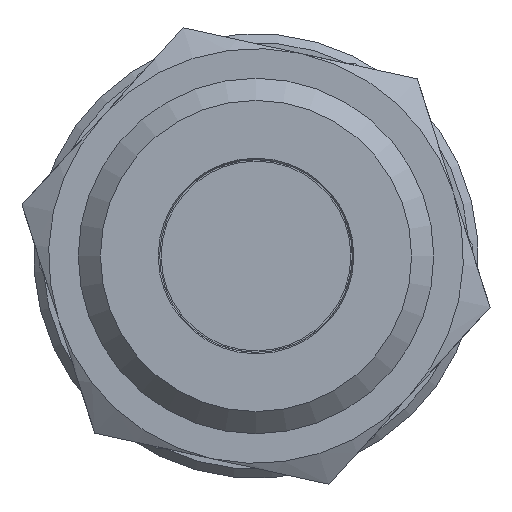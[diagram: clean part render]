
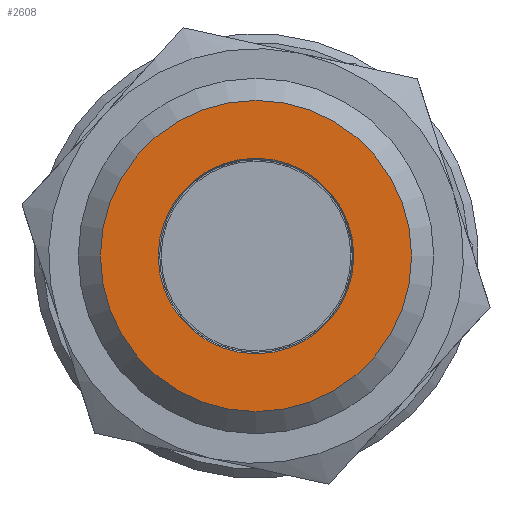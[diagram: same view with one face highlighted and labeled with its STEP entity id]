
A CAD part, front view. The second image highlights one B-rep face of the part: STEP entity #2608.
In plain terms, the highlighted planar face has unit normal (0, -1, 0).
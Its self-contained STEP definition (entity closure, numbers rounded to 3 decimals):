
#100=FACE_BOUND('',#606,.T.);
#126=PLANE('',#2903);
#218=CIRCLE('',#2901,5.25);
#219=CIRCLE('',#2902,5.25);
#220=CIRCLE('',#2904,3.3);
#221=CIRCLE('',#2905,3.3);
#455=FACE_OUTER_BOUND('',#605,.T.);
#605=EDGE_LOOP('',(#1674,#1675));
#606=EDGE_LOOP('',(#1676,#1677));
#982=VERTEX_POINT('',#4439);
#983=VERTEX_POINT('',#4441);
#984=VERTEX_POINT('',#4445);
#985=VERTEX_POINT('',#4446);
#1266=EDGE_CURVE('',#982,#983,#218,.T.);
#1267=EDGE_CURVE('',#983,#982,#219,.T.);
#1268=EDGE_CURVE('',#984,#985,#220,.T.);
#1269=EDGE_CURVE('',#985,#984,#221,.T.);
#1674=ORIENTED_EDGE('',*,*,#1267,.F.);
#1675=ORIENTED_EDGE('',*,*,#1266,.F.);
#1676=ORIENTED_EDGE('',*,*,#1268,.T.);
#1677=ORIENTED_EDGE('',*,*,#1269,.T.);
#2608=ADVANCED_FACE('',(#455,#100),#126,.T.);
#2901=AXIS2_PLACEMENT_3D('',#4442,#3312,#3313);
#2902=AXIS2_PLACEMENT_3D('',#4443,#3314,#3315);
#2903=AXIS2_PLACEMENT_3D('',#4444,#3316,#3317);
#2904=AXIS2_PLACEMENT_3D('',#4447,#3318,#3319);
#2905=AXIS2_PLACEMENT_3D('',#4448,#3320,#3321);
#3312=DIRECTION('center_axis',(0.,1.,0.));
#3313=DIRECTION('ref_axis',(-1.,0.,0.));
#3314=DIRECTION('center_axis',(0.,1.,0.));
#3315=DIRECTION('ref_axis',(-1.,0.,0.));
#3316=DIRECTION('center_axis',(0.,-1.,0.));
#3317=DIRECTION('ref_axis',(0.,0.,-1.));
#3318=DIRECTION('center_axis',(0.,1.,0.));
#3319=DIRECTION('ref_axis',(-1.,0.,0.));
#3320=DIRECTION('center_axis',(0.,1.,0.));
#3321=DIRECTION('ref_axis',(-1.,0.,0.));
#4439=CARTESIAN_POINT('',(-8.095,-0.443,0.748));
#4441=CARTESIAN_POINT('',(-18.595,-0.443,0.748));
#4442=CARTESIAN_POINT('Origin',(-13.345,-0.443,0.748));
#4443=CARTESIAN_POINT('Origin',(-13.345,-0.443,0.748));
#4444=CARTESIAN_POINT('Origin',(-17.62,-0.443,0.748));
#4445=CARTESIAN_POINT('',(-16.645,-0.443,0.748));
#4446=CARTESIAN_POINT('',(-10.045,-0.443,0.748));
#4447=CARTESIAN_POINT('Origin',(-13.345,-0.443,0.748));
#4448=CARTESIAN_POINT('Origin',(-13.345,-0.443,0.748));
